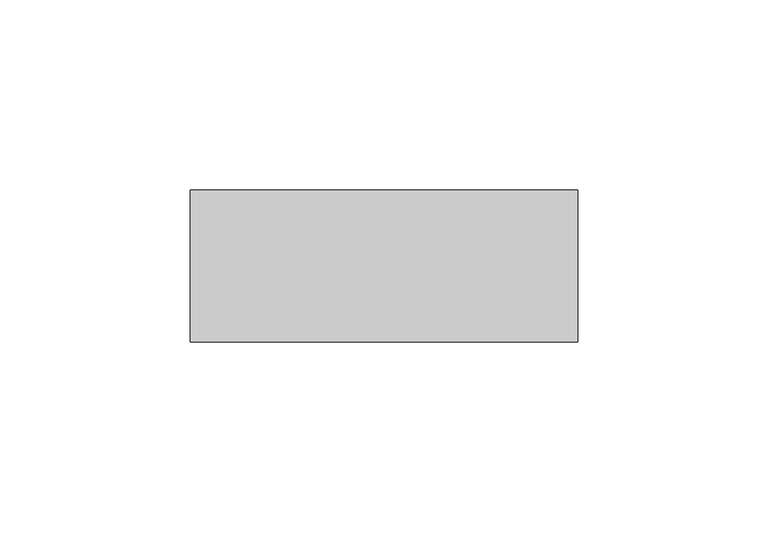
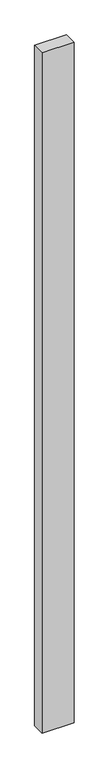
"""IFC4 building model written with IfcOpenShell, lengths in millimetres: plate geometry, Vitré."""

from ifc_helpers import new_model, si_unit, origin, origin_with_axes, place, context, project, spatial, polyline, outline, extrude, source, transform, mapped, element, save


def plate_420348b0(model_context):
    return source(origin(), model_context, "Body", "SweptSolid", [
        extrude(outline(polyline([(-50.9062658, -20.0), (-50.9062658, 20.0), (50.9062658, 20.0), (50.9062658, -20.0), (-50.9062658, -20.0)])), origin_with_axes(), (0.0, 0.0, 1.0), 2292.625),
    ])


if __name__ == "__main__":
    model = new_model("IFC4")
    model_context = context("Model", 3, world=origin())
    ifc_project = project(units=[si_unit("LENGTHUNIT", "METRE", prefix="MILLI")], contexts=[model_context])
    site = spatial("IfcSite", under=ifc_project)
    building = spatial("IfcBuilding", under=site)
    placement = place(None, origin())
    plate_shape = plate_420348b0(model_context)
    element("IfcPlate", 1, ObjectType="Vitré", at=placement, inside=building, context=model_context, shape_type="MappedRepresentation", body=[
        mapped(plate_shape, transform((0.0, 0.0, 0.0), x_axis=(1.0, 0.0, 0.0), y_axis=(0.0, 1.0, 0.0), z_axis=(0.0, 0.0, 1.0))),
    ])
    save(model, "model.ifc")
